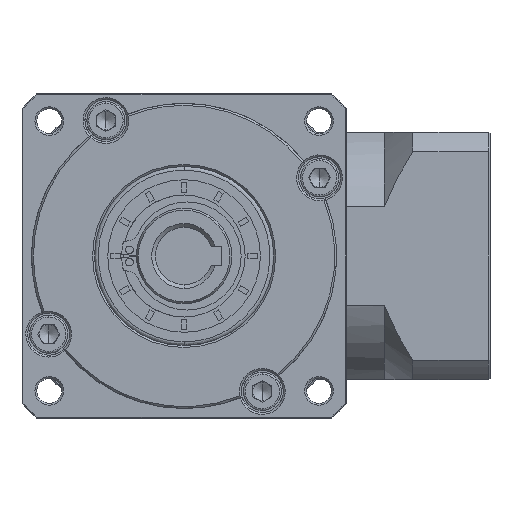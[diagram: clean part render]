
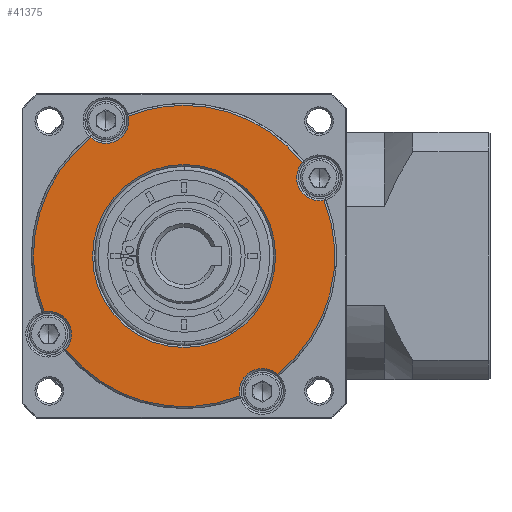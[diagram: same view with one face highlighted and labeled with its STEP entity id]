
A CAD part, left-side view. The second image highlights one B-rep face of the part: STEP entity #41375.
In plain terms, the highlighted planar face has unit normal (-1, 0, 0).
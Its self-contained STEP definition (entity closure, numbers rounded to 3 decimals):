
#893 = DIRECTION ( 'NONE',  ( 0., 0., -1. ) ) ;
#3488 = DIRECTION ( 'NONE',  ( 0., 0., -1. ) ) ;
#4387 = AXIS2_PLACEMENT_3D ( 'NONE', #46114, #136998, #59179 ) ;
#6828 = CARTESIAN_POINT ( 'NONE',  ( -78.111, -25.733, -130.3 ) ) ;
#7182 = EDGE_LOOP ( 'NONE', ( #66699, #59973, #125593, #27279, #43229, #22464, #61421, #14731, #136920, #40732, #94422, #156897 ) ) ;
#7432 = CARTESIAN_POINT ( 'NONE',  ( -78.111, -1.733, -130.3 ) ) ;
#7810 = CIRCLE ( 'NONE', #76754, 6. ) ;
#8371 = EDGE_CURVE ( 'NONE', #141555, #137228, #153975, .T. ) ;
#8821 = CARTESIAN_POINT ( 'NONE',  ( -78.111, -1.733, -130.3 ) ) ;
#10123 = EDGE_CURVE ( 'NONE', #54338, #138168, #7810, .T. ) ;
#10967 = DIRECTION ( 'NONE',  ( 0., 0., -1. ) ) ;
#11580 = EDGE_CURVE ( 'NONE', #91308, #54338, #108825, .T. ) ;
#11628 = DIRECTION ( 'NONE',  ( 0., -1., 0. ) ) ;
#13253 = DIRECTION ( 'NONE',  ( 1., 0., 0. ) ) ;
#14731 = ORIENTED_EDGE ( 'NONE', *, *, #27503, .T. ) ;
#15518 = CIRCLE ( 'NONE', #78360, 39.5 ) ;
#18506 = FACE_BOUND ( 'NONE', #58010, .T. ) ;
#20258 = VERTEX_POINT ( 'NONE', #56842 ) ;
#20570 = DIRECTION ( 'NONE',  ( 0., 0., 1. ) ) ;
#21932 = DIRECTION ( 'NONE',  ( 0., 1., 0. ) ) ;
#22400 = CIRCLE ( 'NONE', #75433, 24. ) ;
#22464 = ORIENTED_EDGE ( 'NONE', *, *, #150252, .T. ) ;
#26103 = CARTESIAN_POINT ( 'NONE',  ( -78.111, 18.767, -94.792 ) ) ;
#27279 = ORIENTED_EDGE ( 'NONE', *, *, #138517, .F. ) ;
#27503 = EDGE_CURVE ( 'NONE', #141555, #163379, #110459, .T. ) ;
#32862 = AXIS2_PLACEMENT_3D ( 'NONE', #146115, #68295, #159237 ) ;
#33276 = AXIS2_PLACEMENT_3D ( 'NONE', #166936, #89113, #10967 ) ;
#33619 = CARTESIAN_POINT ( 'NONE',  ( -78.111, -1.733, -90.8 ) ) ;
#37621 = CARTESIAN_POINT ( 'NONE',  ( -78.111, -1.733, -130.3 ) ) ;
#39279 = DIRECTION ( 'NONE',  ( 0., 0., -1. ) ) ;
#40017 = CIRCLE ( 'NONE', #111580, 6. ) ;
#40732 = ORIENTED_EDGE ( 'NONE', *, *, #104127, .T. ) ;
#41375 = ADVANCED_FACE ( 'NONE', ( #87955, #18506 ), #54680, .T. ) ;
#42821 = EDGE_CURVE ( 'NONE', #163597, #96632, #40017, .T. ) ;
#43222 = CIRCLE ( 'NONE', #4387, 6. ) ;
#43229 = ORIENTED_EDGE ( 'NONE', *, *, #96796, .F. ) ;
#43538 = DIRECTION ( 'NONE',  ( 1., 0., 0. ) ) ;
#46114 = CARTESIAN_POINT ( 'NONE',  ( -78.111, 33.774, -150.8 ) ) ;
#48047 = CARTESIAN_POINT ( 'NONE',  ( -78.111, -37.24, -109.8 ) ) ;
#48639 = CARTESIAN_POINT ( 'NONE',  ( -78.111, -1.733, -130.3 ) ) ;
#50779 = DIRECTION ( 'NONE',  ( 0., -1., 0. ) ) ;
#54102 = CARTESIAN_POINT ( 'NONE',  ( -78.111, -32.741, -105.83 ) ) ;
#54338 = VERTEX_POINT ( 'NONE', #68675 ) ;
#54680 = PLANE ( 'NONE',  #32862 ) ;
#56842 = CARTESIAN_POINT ( 'NONE',  ( -78.111, 22.267, -130.3 ) ) ;
#58010 = EDGE_LOOP ( 'NONE', ( #77173, #76675 ) ) ;
#58831 = VERTEX_POINT ( 'NONE', #72184 ) ;
#59179 = DIRECTION ( 'NONE',  ( 0., 0., -1. ) ) ;
#59973 = ORIENTED_EDGE ( 'NONE', *, *, #11580, .T. ) ;
#61115 = DIRECTION ( 'NONE',  ( 0., 0., -1. ) ) ;
#61421 = ORIENTED_EDGE ( 'NONE', *, *, #8371, .F. ) ;
#61708 = DIRECTION ( 'NONE',  ( 0., 0., 1. ) ) ;
#62376 = AXIS2_PLACEMENT_3D ( 'NONE', #91411, #13253, #104371 ) ;
#66699 = ORIENTED_EDGE ( 'NONE', *, *, #77695, .F. ) ;
#68295 = DIRECTION ( 'NONE',  ( -1., 0., 0. ) ) ;
#68675 = CARTESIAN_POINT ( 'NONE',  ( -78.111, 18.767, -100.792 ) ) ;
#72046 = CARTESIAN_POINT ( 'NONE',  ( -78.111, -1.733, -130.3 ) ) ;
#72184 = CARTESIAN_POINT ( 'NONE',  ( -78.111, 37.767, -130.3 ) ) ;
#75433 = AXIS2_PLACEMENT_3D ( 'NONE', #37621, #128575, #50779 ) ;
#76675 = ORIENTED_EDGE ( 'NONE', *, *, #149792, .T. ) ;
#76754 = AXIS2_PLACEMENT_3D ( 'NONE', #26103, #117175, #39279 ) ;
#77173 = ORIENTED_EDGE ( 'NONE', *, *, #80648, .T. ) ;
#77695 = EDGE_CURVE ( 'NONE', #91308, #87697, #133547, .T. ) ;
#78360 = AXIS2_PLACEMENT_3D ( 'NONE', #7432, #98681, #20570 ) ;
#79091 = DIRECTION ( 'NONE',  ( 1., 0., 0. ) ) ;
#80363 = AXIS2_PLACEMENT_3D ( 'NONE', #8821, #100006, #21932 ) ;
#80648 = EDGE_CURVE ( 'NONE', #109589, #20258, #133018, .T. ) ;
#81275 = CIRCLE ( 'NONE', #153248, 39.5 ) ;
#81726 = DIRECTION ( 'NONE',  ( 1., 0., 0. ) ) ;
#82327 = VERTEX_POINT ( 'NONE', #129254 ) ;
#85134 = DIRECTION ( 'NONE',  ( 0., 1., 0. ) ) ;
#86139 = AXIS2_PLACEMENT_3D ( 'NONE', #156933, #79091, #893 ) ;
#87697 = VERTEX_POINT ( 'NONE', #33619 ) ;
#87955 = FACE_OUTER_BOUND ( 'NONE', #7182, .T. ) ;
#89113 = DIRECTION ( 'NONE',  ( 1., 0., 0. ) ) ;
#89245 = CARTESIAN_POINT ( 'NONE',  ( -78.111, 22.737, -99.292 ) ) ;
#89695 = AXIS2_PLACEMENT_3D ( 'NONE', #159532, #81726, #3488 ) ;
#89774 = DIRECTION ( 'NONE',  ( 1., 0., 0. ) ) ;
#90336 = CARTESIAN_POINT ( 'NONE',  ( -78.111, 12.886, -93.604 ) ) ;
#91308 = VERTEX_POINT ( 'NONE', #90336 ) ;
#91411 = CARTESIAN_POINT ( 'NONE',  ( -78.111, -1.733, -130.3 ) ) ;
#91798 = VERTEX_POINT ( 'NONE', #99812 ) ;
#94422 = ORIENTED_EDGE ( 'NONE', *, *, #42821, .T. ) ;
#96632 = VERTEX_POINT ( 'NONE', #54102 ) ;
#96796 = EDGE_CURVE ( 'NONE', #82327, #58831, #122553, .T. ) ;
#98681 = DIRECTION ( 'NONE',  ( 1., 0., 0. ) ) ;
#99812 = CARTESIAN_POINT ( 'NONE',  ( -78.111, -38.428, -115.681 ) ) ;
#100006 = DIRECTION ( 'NONE',  ( 1., 0., 0. ) ) ;
#102309 = CIRCLE ( 'NONE', #110312, 39.5 ) ;
#104127 = EDGE_CURVE ( 'NONE', #91798, #163597, #155254, .T. ) ;
#104371 = DIRECTION ( 'NONE',  ( 0., 0., 1. ) ) ;
#108825 = CIRCLE ( 'NONE', #33276, 6. ) ;
#109589 = VERTEX_POINT ( 'NONE', #6828 ) ;
#110312 = AXIS2_PLACEMENT_3D ( 'NONE', #48639, #139537, #61708 ) ;
#110459 = CIRCLE ( 'NONE', #89695, 6. ) ;
#111580 = AXIS2_PLACEMENT_3D ( 'NONE', #48047, #138928, #61115 ) ;
#111840 = AXIS2_PLACEMENT_3D ( 'NONE', #167608, #89774, #11628 ) ;
#114495 = AXIS2_PLACEMENT_3D ( 'NONE', #121376, #43538, #134463 ) ;
#117175 = DIRECTION ( 'NONE',  ( 1., 0., 0. ) ) ;
#119112 = CARTESIAN_POINT ( 'NONE',  ( -78.111, -16.351, -166.995 ) ) ;
#121376 = CARTESIAN_POINT ( 'NONE',  ( -78.111, -1.733, -130.3 ) ) ;
#122553 = CIRCLE ( 'NONE', #80363, 39.5 ) ;
#123530 = CARTESIAN_POINT ( 'NONE',  ( -78.111, 29.275, -154.769 ) ) ;
#125593 = ORIENTED_EDGE ( 'NONE', *, *, #10123, .T. ) ;
#128041 = EDGE_CURVE ( 'NONE', #91798, #163379, #102309, .T. ) ;
#128575 = DIRECTION ( 'NONE',  ( 1., 0., 0. ) ) ;
#129254 = CARTESIAN_POINT ( 'NONE',  ( -78.111, 34.963, -144.918 ) ) ;
#133018 = CIRCLE ( 'NONE', #111840, 24. ) ;
#133547 = CIRCLE ( 'NONE', #62376, 39.5 ) ;
#134463 = DIRECTION ( 'NONE',  ( 0., 0., 1. ) ) ;
#136920 = ORIENTED_EDGE ( 'NONE', *, *, #128041, .F. ) ;
#136998 = DIRECTION ( 'NONE',  ( 1., 0., 0. ) ) ;
#137228 = VERTEX_POINT ( 'NONE', #123530 ) ;
#138168 = VERTEX_POINT ( 'NONE', #89245 ) ;
#138517 = EDGE_CURVE ( 'NONE', #58831, #138168, #81275, .T. ) ;
#138928 = DIRECTION ( 'NONE',  ( 1., 0., 0. ) ) ;
#139537 = DIRECTION ( 'NONE',  ( 1., 0., 0. ) ) ;
#141555 = VERTEX_POINT ( 'NONE', #119112 ) ;
#146115 = CARTESIAN_POINT ( 'NONE',  ( -78.111, -1.733, -130.3 ) ) ;
#149792 = EDGE_CURVE ( 'NONE', #20258, #109589, #22400, .T. ) ;
#150252 = EDGE_CURVE ( 'NONE', #82327, #137228, #43222, .T. ) ;
#153248 = AXIS2_PLACEMENT_3D ( 'NONE', #72046, #162961, #85134 ) ;
#153975 = CIRCLE ( 'NONE', #114495, 39.5 ) ;
#155254 = CIRCLE ( 'NONE', #86139, 6. ) ;
#156897 = ORIENTED_EDGE ( 'NONE', *, *, #167034, .F. ) ;
#156933 = CARTESIAN_POINT ( 'NONE',  ( -78.111, -37.24, -109.8 ) ) ;
#158611 = CARTESIAN_POINT ( 'NONE',  ( -78.111, -37.24, -115.8 ) ) ;
#159237 = DIRECTION ( 'NONE',  ( 0., 0., -1. ) ) ;
#159532 = CARTESIAN_POINT ( 'NONE',  ( -78.111, -22.233, -165.807 ) ) ;
#162961 = DIRECTION ( 'NONE',  ( 1., 0., 0. ) ) ;
#163379 = VERTEX_POINT ( 'NONE', #166100 ) ;
#163597 = VERTEX_POINT ( 'NONE', #158611 ) ;
#166100 = CARTESIAN_POINT ( 'NONE',  ( -78.111, -26.202, -161.307 ) ) ;
#166936 = CARTESIAN_POINT ( 'NONE',  ( -78.111, 18.767, -94.792 ) ) ;
#167034 = EDGE_CURVE ( 'NONE', #87697, #96632, #15518, .T. ) ;
#167608 = CARTESIAN_POINT ( 'NONE',  ( -78.111, -1.733, -130.3 ) ) ;
